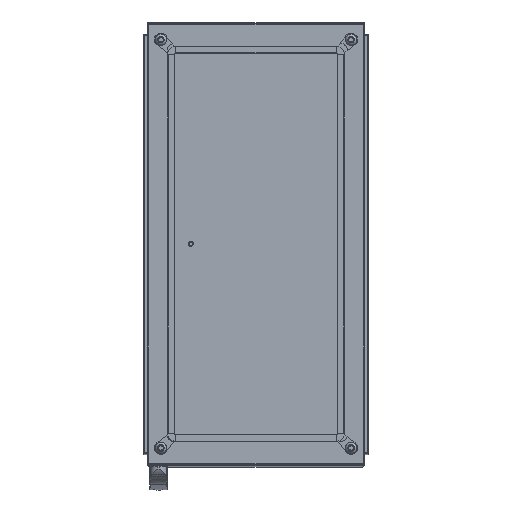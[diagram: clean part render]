
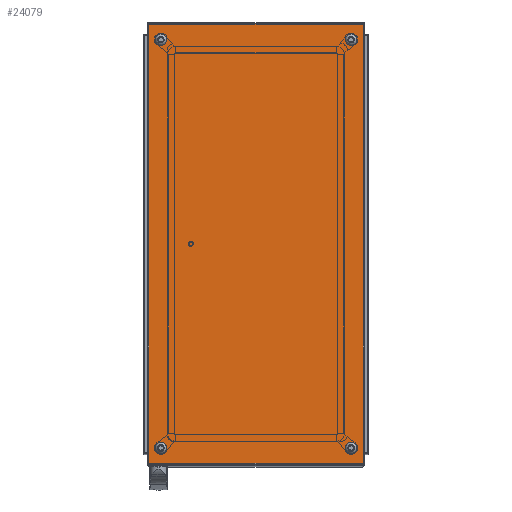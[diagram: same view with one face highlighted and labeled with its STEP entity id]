
A CAD part, top view. The second image highlights one B-rep face of the part: STEP entity #24079.
In plain terms, the highlighted planar face has unit normal (0, 0, 1).
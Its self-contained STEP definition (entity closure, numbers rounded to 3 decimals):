
#1251=CIRCLE('',#25932,6.);
#1252=CIRCLE('',#25933,6.);
#1253=CIRCLE('',#25934,6.);
#1254=CIRCLE('',#25935,6.);
#4823=ORIENTED_EDGE('',*,*,#10401,.F.);
#4824=ORIENTED_EDGE('',*,*,#10402,.F.);
#4825=ORIENTED_EDGE('',*,*,#10403,.F.);
#4826=ORIENTED_EDGE('',*,*,#10404,.F.);
#4827=ORIENTED_EDGE('',*,*,#10390,.T.);
#4828=ORIENTED_EDGE('',*,*,#10398,.T.);
#4829=ORIENTED_EDGE('',*,*,#10361,.F.);
#4830=ORIENTED_EDGE('',*,*,#10405,.F.);
#10361=EDGE_CURVE('',#13385,#13386,#15777,.T.);
#10390=EDGE_CURVE('',#13407,#13406,#15783,.T.);
#10398=EDGE_CURVE('',#13406,#13386,#15788,.T.);
#10401=EDGE_CURVE('',#13408,#13408,#1251,.T.);
#10402=EDGE_CURVE('',#13409,#13409,#1252,.T.);
#10403=EDGE_CURVE('',#13410,#13410,#1253,.T.);
#10404=EDGE_CURVE('',#13411,#13411,#1254,.T.);
#10405=EDGE_CURVE('',#13407,#13385,#15791,.T.);
#13385=VERTEX_POINT('',#37855);
#13386=VERTEX_POINT('',#37857);
#13406=VERTEX_POINT('',#37931);
#13407=VERTEX_POINT('',#37933);
#13408=VERTEX_POINT('',#37950);
#13409=VERTEX_POINT('',#37952);
#13410=VERTEX_POINT('',#37954);
#13411=VERTEX_POINT('',#37956);
#15777=LINE('',#37856,#17898);
#15783=LINE('',#37932,#17904);
#15788=LINE('',#37944,#17909);
#15791=LINE('',#37957,#17912);
#17898=VECTOR('',#30386,1000.);
#17904=VECTOR('',#30440,1000.);
#17909=VECTOR('',#30457,1000.);
#17912=VECTOR('',#30472,1000.);
#19717=EDGE_LOOP('',(#4823));
#19718=EDGE_LOOP('',(#4824));
#19719=EDGE_LOOP('',(#4825));
#19720=EDGE_LOOP('',(#4826));
#19721=EDGE_LOOP('',(#4827,#4828,#4829,#4830));
#21640=FACE_BOUND('',#19717,.T.);
#21641=FACE_BOUND('',#19718,.T.);
#21642=FACE_BOUND('',#19719,.T.);
#21643=FACE_BOUND('',#19720,.T.);
#21644=FACE_BOUND('',#19721,.T.);
#23220=PLANE('',#25931);
#24079=ADVANCED_FACE('',(#21640,#21641,#21642,#21643,#21644),#23220,.T.);
#25931=AXIS2_PLACEMENT_3D('',#37948,#30462,#30463);
#25932=AXIS2_PLACEMENT_3D('',#37949,#30464,#30465);
#25933=AXIS2_PLACEMENT_3D('',#37951,#30466,#30467);
#25934=AXIS2_PLACEMENT_3D('',#37953,#30468,#30469);
#25935=AXIS2_PLACEMENT_3D('',#37955,#30470,#30471);
#30386=DIRECTION('',(-1.,0.,0.));
#30440=DIRECTION('',(-1.,0.,0.));
#30457=DIRECTION('',(0.,-1.,0.));
#30462=DIRECTION('',(0.,0.,1.));
#30463=DIRECTION('',(1.,0.,0.));
#30464=DIRECTION('',(0.,0.,1.));
#30465=DIRECTION('',(1.,0.,0.));
#30466=DIRECTION('',(0.,0.,1.));
#30467=DIRECTION('',(1.,0.,0.));
#30468=DIRECTION('',(0.,0.,1.));
#30469=DIRECTION('',(1.,0.,0.));
#30470=DIRECTION('',(0.,0.,1.));
#30471=DIRECTION('',(1.,0.,0.));
#30472=DIRECTION('',(0.,-1.,0.));
#37855=CARTESIAN_POINT('',(196.5,-402.5,20.));
#37856=CARTESIAN_POINT('',(200.,-402.5,20.));
#37857=CARTESIAN_POINT('',(-196.5,-402.5,20.));
#37931=CARTESIAN_POINT('',(-196.5,402.5,20.));
#37932=CARTESIAN_POINT('',(200.,402.5,20.));
#37933=CARTESIAN_POINT('',(196.5,402.5,20.));
#37944=CARTESIAN_POINT('',(-196.5,405.5,20.));
#37948=CARTESIAN_POINT('',(-196.5,-402.5,20.));
#37949=CARTESIAN_POINT('',(174.5,-374.5,20.));
#37950=CARTESIAN_POINT('',(180.5,-374.5,20.));
#37951=CARTESIAN_POINT('',(-174.5,374.5,20.));
#37952=CARTESIAN_POINT('',(-168.5,374.5,20.));
#37953=CARTESIAN_POINT('',(174.5,374.5,20.));
#37954=CARTESIAN_POINT('',(180.5,374.5,20.));
#37955=CARTESIAN_POINT('',(-174.5,-374.5,20.));
#37956=CARTESIAN_POINT('',(-168.5,-374.5,20.));
#37957=CARTESIAN_POINT('',(196.5,405.5,20.));
